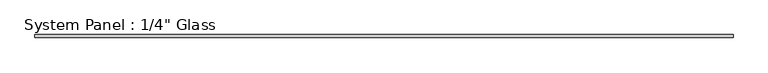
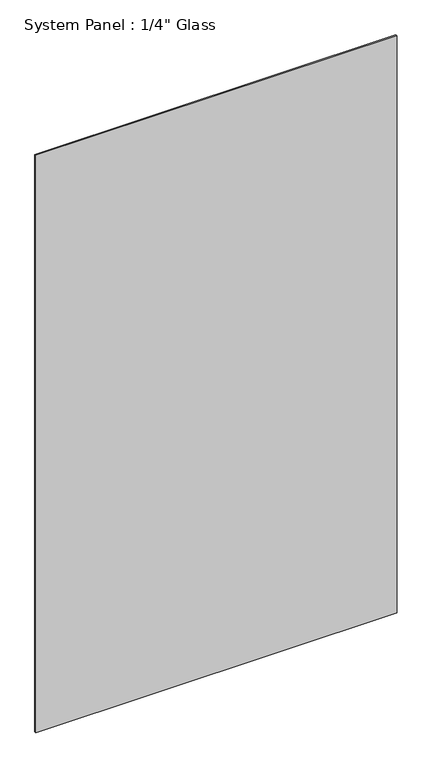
"""IFC4 building model written with IfcOpenShell, lengths in millimetres: plate geometry."""

from ifc_helpers import new_model, si_unit, origin, origin_with_axes, place, context, project, spatial, polyline, outline, extrude, source, transform, mapped, element, save


def plate_aaac5d3d(model_context):
    return source(origin(), model_context, "Body", "SweptSolid", [
        extrude(outline(polyline([(736.5895336, -3.175), (-736.5895336, -3.175), (-736.5895336, 3.175), (736.5895336, 3.175), (736.5895336, -3.175)])), origin_with_axes(), (0.0, 0.0, 1.0), 2489.2),
    ])


if __name__ == "__main__":
    model = new_model("IFC4")
    model_context = context("Model", 3, world=origin())
    ifc_project = project(units=[si_unit("LENGTHUNIT", "METRE", prefix="MILLI")], contexts=[model_context])
    site = spatial("IfcSite", under=ifc_project)
    building = spatial("IfcBuilding", under=site)
    placement = place(None, origin())
    plate_shape = plate_aaac5d3d(model_context)
    element("IfcPlate", 1, ObjectType="System Panel : 1/4\" Glass", at=placement, inside=building, context=model_context, shape_type="MappedRepresentation", body=[
        mapped(plate_shape, transform((0.0, 0.0, 0.0), x_axis=(1.0, 0.0, 0.0), y_axis=(0.0, 1.0, 0.0), z_axis=(0.0, 0.0, 1.0))),
    ])
    save(model, "model.ifc")
